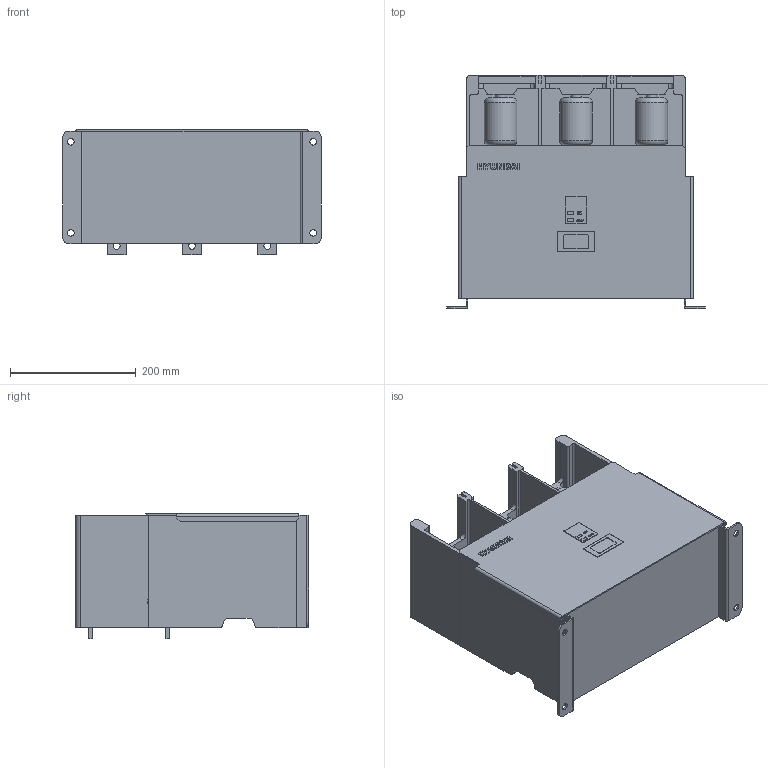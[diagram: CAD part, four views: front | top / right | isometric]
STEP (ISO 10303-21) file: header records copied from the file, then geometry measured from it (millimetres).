
FILE_DESCRIPTION(('STEP AP203'), '1');
FILE_NAME('UVC64.stp', '2013-06-03T09:27:52', ('sv-vesta'), ('Àñêîí'), 'ASCON STEP Converter 1.3', 'Kompas 3D', '');
FILE_SCHEMA(('CONFIG_CONTROL_DESIGN','SUPPORT_RESOURCE_SCHEMA'));
Length unit declared in the file: millimetre
Products named in the file (1): 1
Bounding box: 412 x 371.4 x 200.2 mm (x, y, z)
Volume: 15978281.8 mm3; surface area: 824408.1 mm2
Topology: 1 solids, 1 shells, 513 faces, 1382 edges, 903 vertices
Faces by surface type: plane 392, cylinder 88, extrusion 27, torus 6
Full cylindrical faces by diameter (mm): 2 x6, 10.5 x4, 11 x6, 17 x6, 52 x3
Entity records: 16997 total; most frequent: CARTESIAN_POINT 3926, ORIENTED_EDGE 2764, DIRECTION 2521, EDGE_CURVE 1382, VECTOR 1129, LINE 1102, VERTEX_POINT 904, AXIS2_PLACEMENT_3D 696
